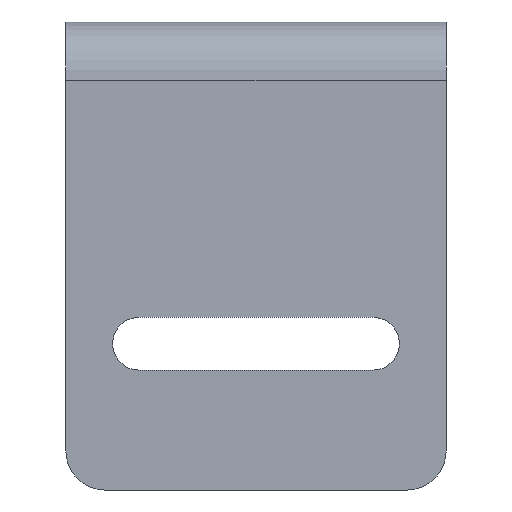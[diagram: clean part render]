
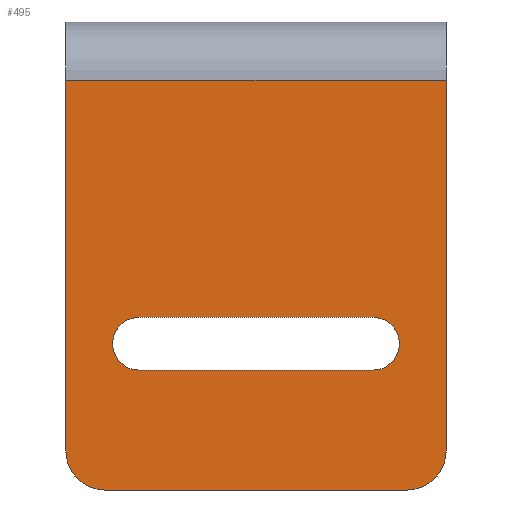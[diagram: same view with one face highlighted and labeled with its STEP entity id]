
A CAD part, front view. The second image highlights one B-rep face of the part: STEP entity #495.
In plain terms, the highlighted planar face has unit normal (0, -1, 0).
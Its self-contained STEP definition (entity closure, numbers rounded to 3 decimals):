
#8 = VERTEX_POINT ( 'NONE', #861 ) ;
#20 = DIRECTION ( 'NONE',  ( 0., 0., -1. ) ) ;
#29 = AXIS2_PLACEMENT_3D ( 'NONE', #842, #182, #435 ) ;
#34 = LINE ( 'NONE', #293, #682 ) ;
#38 = EDGE_CURVE ( 'NONE', #623, #822, #187, .T. ) ;
#43 = EDGE_LOOP ( 'NONE', ( #262, #764, #112, #374, #125, #79 ) ) ;
#51 = ORIENTED_EDGE ( 'NONE', *, *, #426, .T. ) ;
#54 = CIRCLE ( 'NONE', #691, 4. ) ;
#64 = CARTESIAN_POINT ( 'NONE',  ( 15.5, -3., -45. ) ) ;
#70 = LINE ( 'NONE', #575, #760 ) ;
#76 = EDGE_CURVE ( 'NONE', #120, #221, #70, .T. ) ;
#79 = ORIENTED_EDGE ( 'NONE', *, *, #597, .T. ) ;
#86 = PLANE ( 'NONE',  #771 ) ;
#101 = EDGE_CURVE ( 'NONE', #490, #822, #390, .T. ) ;
#107 = CIRCLE ( 'NONE', #555, 2.7 ) ;
#110 = CARTESIAN_POINT ( 'NONE',  ( 15.5, -3., -41. ) ) ;
#112 = ORIENTED_EDGE ( 'NONE', *, *, #38, .F. ) ;
#115 = DIRECTION ( 'NONE',  ( -1., 0., 0. ) ) ;
#119 = DIRECTION ( 'NONE',  ( -1., 0., 0. ) ) ;
#120 = VERTEX_POINT ( 'NONE', #277 ) ;
#121 = LINE ( 'NONE', #641, #582 ) ;
#125 = ORIENTED_EDGE ( 'NONE', *, *, #314, .F. ) ;
#128 = ORIENTED_EDGE ( 'NONE', *, *, #506, .T. ) ;
#146 = CARTESIAN_POINT ( 'NONE',  ( -19.5, -3., -41. ) ) ;
#160 = EDGE_LOOP ( 'NONE', ( #619, #128, #51, #505 ) ) ;
#176 = CARTESIAN_POINT ( 'NONE',  ( 19.5, -3., -3. ) ) ;
#182 = DIRECTION ( 'NONE',  ( 0., 1., 0. ) ) ;
#187 = LINE ( 'NONE', #521, #367 ) ;
#221 = VERTEX_POINT ( 'NONE', #291 ) ;
#231 = DIRECTION ( 'NONE',  ( 0., 1., 0. ) ) ;
#240 = AXIS2_PLACEMENT_3D ( 'NONE', #296, #816, #735 ) ;
#257 = VERTEX_POINT ( 'NONE', #796 ) ;
#262 = ORIENTED_EDGE ( 'NONE', *, *, #399, .T. ) ;
#277 = CARTESIAN_POINT ( 'NONE',  ( 12., -3., -32.7 ) ) ;
#291 = CARTESIAN_POINT ( 'NONE',  ( -12., -3., -32.7 ) ) ;
#293 = CARTESIAN_POINT ( 'NONE',  ( -12., -3., -27.3 ) ) ;
#296 = CARTESIAN_POINT ( 'NONE',  ( -15.5, -3., -41. ) ) ;
#306 = CARTESIAN_POINT ( 'NONE',  ( -15.5, -3., -45. ) ) ;
#314 = EDGE_CURVE ( 'NONE', #257, #8, #121, .T. ) ;
#359 = DIRECTION ( 'NONE',  ( 0., 0., 1. ) ) ;
#367 = VECTOR ( 'NONE', #781, 1000. ) ;
#374 = ORIENTED_EDGE ( 'NONE', *, *, #844, .T. ) ;
#390 = CIRCLE ( 'NONE', #240, 4. ) ;
#399 = EDGE_CURVE ( 'NONE', #537, #490, #482, .T. ) ;
#406 = CIRCLE ( 'NONE', #29, 2.7 ) ;
#414 = DIRECTION ( 'NONE',  ( 0., 1., 0. ) ) ;
#420 = CARTESIAN_POINT ( 'NONE',  ( 12., -3., -27.3 ) ) ;
#426 = EDGE_CURVE ( 'NONE', #708, #817, #34, .T. ) ;
#435 = DIRECTION ( 'NONE',  ( 0., 0., 1. ) ) ;
#482 = LINE ( 'NONE', #827, #722 ) ;
#490 = VERTEX_POINT ( 'NONE', #146 ) ;
#495 = ADVANCED_FACE ( 'NONE', ( #543, #806 ), #86, .F. ) ;
#497 = CARTESIAN_POINT ( 'NONE',  ( 12., -3., -30. ) ) ;
#505 = ORIENTED_EDGE ( 'NONE', *, *, #766, .T. ) ;
#506 = EDGE_CURVE ( 'NONE', #221, #708, #406, .T. ) ;
#521 = CARTESIAN_POINT ( 'NONE',  ( 19.5, -3., -45. ) ) ;
#537 = VERTEX_POINT ( 'NONE', #847 ) ;
#543 = FACE_BOUND ( 'NONE', #160, .T. ) ;
#555 = AXIS2_PLACEMENT_3D ( 'NONE', #497, #231, #815 ) ;
#558 = CARTESIAN_POINT ( 'NONE',  ( -12., -3., -27.3 ) ) ;
#575 = CARTESIAN_POINT ( 'NONE',  ( -12., -3., -32.7 ) ) ;
#582 = VECTOR ( 'NONE', #723, 1000. ) ;
#597 = EDGE_CURVE ( 'NONE', #257, #537, #834, .T. ) ;
#619 = ORIENTED_EDGE ( 'NONE', *, *, #76, .T. ) ;
#623 = VERTEX_POINT ( 'NONE', #64 ) ;
#641 = CARTESIAN_POINT ( 'NONE',  ( 19.5, -3., 0. ) ) ;
#682 = VECTOR ( 'NONE', #810, 1000. ) ;
#691 = AXIS2_PLACEMENT_3D ( 'NONE', #110, #762, #696 ) ;
#696 = DIRECTION ( 'NONE',  ( 0., 0., 1. ) ) ;
#708 = VERTEX_POINT ( 'NONE', #558 ) ;
#722 = VECTOR ( 'NONE', #20, 1000. ) ;
#723 = DIRECTION ( 'NONE',  ( 0., 0., -1. ) ) ;
#735 = DIRECTION ( 'NONE',  ( 0., 0., 1. ) ) ;
#742 = CARTESIAN_POINT ( 'NONE',  ( 19.5, -3., 0. ) ) ;
#760 = VECTOR ( 'NONE', #115, 1000. ) ;
#762 = DIRECTION ( 'NONE',  ( 0., -1., 0. ) ) ;
#764 = ORIENTED_EDGE ( 'NONE', *, *, #101, .T. ) ;
#766 = EDGE_CURVE ( 'NONE', #817, #120, #107, .T. ) ;
#770 = VECTOR ( 'NONE', #119, 1000. ) ;
#771 = AXIS2_PLACEMENT_3D ( 'NONE', #742, #414, #359 ) ;
#781 = DIRECTION ( 'NONE',  ( -1., 0., 0. ) ) ;
#796 = CARTESIAN_POINT ( 'NONE',  ( 19.5, -3., -3. ) ) ;
#806 = FACE_OUTER_BOUND ( 'NONE', #43, .T. ) ;
#810 = DIRECTION ( 'NONE',  ( 1., 0., 0. ) ) ;
#815 = DIRECTION ( 'NONE',  ( 0., 0., 1. ) ) ;
#816 = DIRECTION ( 'NONE',  ( 0., -1., 0. ) ) ;
#817 = VERTEX_POINT ( 'NONE', #420 ) ;
#822 = VERTEX_POINT ( 'NONE', #306 ) ;
#827 = CARTESIAN_POINT ( 'NONE',  ( -19.5, -3., 0. ) ) ;
#834 = LINE ( 'NONE', #176, #770 ) ;
#842 = CARTESIAN_POINT ( 'NONE',  ( -12., -3., -30. ) ) ;
#844 = EDGE_CURVE ( 'NONE', #623, #8, #54, .T. ) ;
#847 = CARTESIAN_POINT ( 'NONE',  ( -19.5, -3., -3. ) ) ;
#861 = CARTESIAN_POINT ( 'NONE',  ( 19.5, -3., -41. ) ) ;
